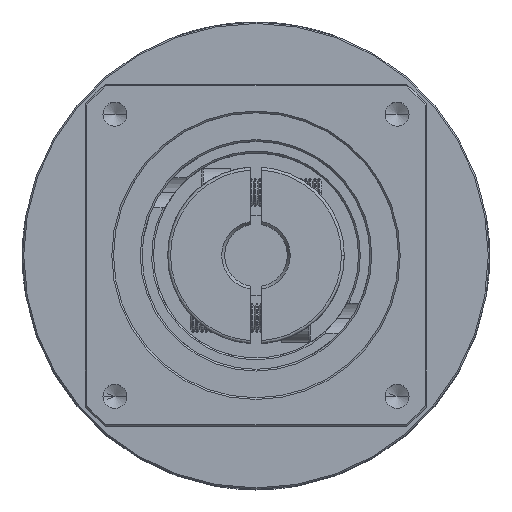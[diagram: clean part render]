
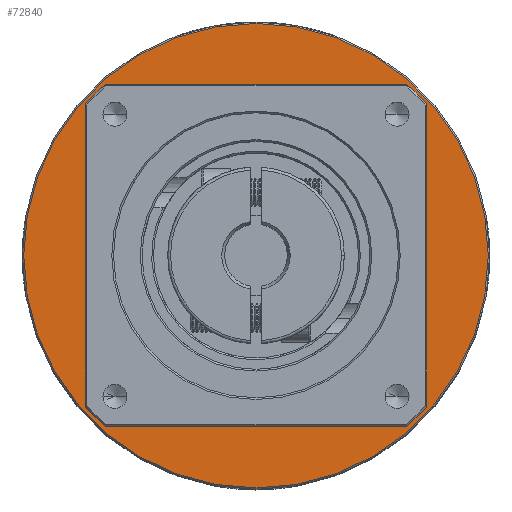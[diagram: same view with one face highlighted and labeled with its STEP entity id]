
A CAD part, top view. The second image highlights one B-rep face of the part: STEP entity #72840.
In plain terms, the highlighted planar face has unit normal (0, 0, 1).
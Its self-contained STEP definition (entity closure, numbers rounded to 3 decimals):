
#2622 = AXIS2_PLACEMENT_3D ( 'NONE', #3811, #65980, #12733 ) ;
#3811 = CARTESIAN_POINT ( 'NONE',  ( -65.061, 18.526, -26.443 ) ) ;
#4691 = ORIENTED_EDGE ( 'NONE', *, *, #65075, .F. ) ;
#5060 = FACE_BOUND ( 'NONE', #23636, .T. ) ;
#7128 = CARTESIAN_POINT ( 'NONE',  ( -65.061, 59.276, -26.443 ) ) ;
#7195 = DIRECTION ( 'NONE',  ( -1., 0., 0. ) ) ;
#12733 = DIRECTION ( 'NONE',  ( 1., 0., 0. ) ) ;
#14985 = CARTESIAN_POINT ( 'NONE',  ( -65.061, 18.526, -26.443 ) ) ;
#23636 = EDGE_LOOP ( 'NONE', ( #95406, #62394 ) ) ;
#23677 = AXIS2_PLACEMENT_3D ( 'NONE', #93434, #40104, #102362 ) ;
#23882 = DIRECTION ( 'NONE',  ( 0., 1., 0. ) ) ;
#24881 = CARTESIAN_POINT ( 'NONE',  ( -95.061, 18.526, -26.443 ) ) ;
#26529 = CIRCLE ( 'NONE', #107110, 40.75 ) ;
#33989 = VERTEX_POINT ( 'NONE', #7128 ) ;
#38444 = ORIENTED_EDGE ( 'NONE', *, *, #80605, .F. ) ;
#40104 = DIRECTION ( 'NONE',  ( 0., 0., -1. ) ) ;
#41383 = DIRECTION ( 'NONE',  ( 0., 0., -1. ) ) ;
#48720 = CIRCLE ( 'NONE', #114020, 30. ) ;
#48909 = VERTEX_POINT ( 'NONE', #110998 ) ;
#51392 = AXIS2_PLACEMENT_3D ( 'NONE', #94731, #41383, #103637 ) ;
#52279 = FACE_OUTER_BOUND ( 'NONE', #65911, .T. ) ;
#53380 = CIRCLE ( 'NONE', #51392, 40.75 ) ;
#60446 = DIRECTION ( 'NONE',  ( 0., 0., -1. ) ) ;
#62394 = ORIENTED_EDGE ( 'NONE', *, *, #84584, .T. ) ;
#65075 = EDGE_CURVE ( 'NONE', #48909, #33989, #53380, .T. ) ;
#65911 = EDGE_LOOP ( 'NONE', ( #38444, #4691 ) ) ;
#65980 = DIRECTION ( 'NONE',  ( 0., 0., 1. ) ) ;
#69006 = EDGE_CURVE ( 'NONE', #105785, #107326, #87193, .T. ) ;
#72840 = ADVANCED_FACE ( 'NONE', ( #52279, #5060 ), #100970, .T. ) ;
#77147 = DIRECTION ( 'NONE',  ( 0., 0., -1. ) ) ;
#80605 = EDGE_CURVE ( 'NONE', #33989, #48909, #26529, .T. ) ;
#84584 = EDGE_CURVE ( 'NONE', #107326, #105785, #48720, .T. ) ;
#87193 = CIRCLE ( 'NONE', #23677, 30. ) ;
#93434 = CARTESIAN_POINT ( 'NONE',  ( -65.061, 18.526, -26.443 ) ) ;
#94731 = CARTESIAN_POINT ( 'NONE',  ( -65.061, 18.526, -26.443 ) ) ;
#95406 = ORIENTED_EDGE ( 'NONE', *, *, #69006, .T. ) ;
#100970 = PLANE ( 'NONE',  #2622 ) ;
#102362 = DIRECTION ( 'NONE',  ( -1., 0., 0. ) ) ;
#103637 = DIRECTION ( 'NONE',  ( 0., 1., 0. ) ) ;
#105366 = CARTESIAN_POINT ( 'NONE',  ( -35.061, 18.526, -26.443 ) ) ;
#105785 = VERTEX_POINT ( 'NONE', #24881 ) ;
#107110 = AXIS2_PLACEMENT_3D ( 'NONE', #14985, #77147, #23882 ) ;
#107326 = VERTEX_POINT ( 'NONE', #105366 ) ;
#110998 = CARTESIAN_POINT ( 'NONE',  ( -65.061, -22.224, -26.443 ) ) ;
#113691 = CARTESIAN_POINT ( 'NONE',  ( -65.061, 18.526, -26.443 ) ) ;
#114020 = AXIS2_PLACEMENT_3D ( 'NONE', #113691, #60446, #7195 ) ;
